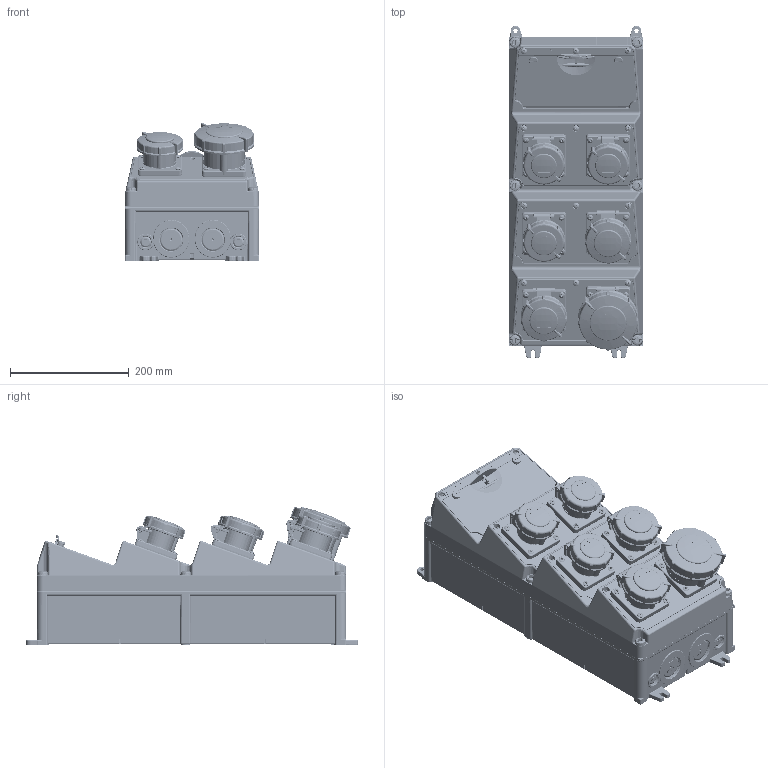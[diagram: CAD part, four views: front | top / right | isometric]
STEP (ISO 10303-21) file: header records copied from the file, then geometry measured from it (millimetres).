
FILE_DESCRIPTION((''),'2;1');
FILE_NAME('940028-1_ASM_1_ASM','2018-06-12T',('prakek'),('MENNEKES'),'PRO/ENGINEER BY PARAMETRIC TECHNOLOGY CORPORATION, 2015440','PRO/ENGINEER BY PARAMETRIC TECHNOLOGY CORPORATION, 2015440','');
FILE_SCHEMA(('AUTOMOTIVE_DESIGN { 1 0 10303 214 1 1 1 1 }'));
Products named in the file (11): 4-4_SW_O_GRAU_1; LS_4POL_4TE_1; LS_3POL_3TE_1; LS_2POL_2TE_1; MP_LEER_GRAU_1; MP_FEN10_67_OBEN_GRAU_1; BAUTEIL_DUMMY__1; FL85X75_CEE_32_5_67_ROT_1; FL75X75_CEE_16_4_67_ROT_1; FL75X75_CEE_16_3_67_BLAU_1; 940028-1_ASM_1_ASM
Assembly tree (15 placements, depth 2):
  940028-1_ASM_1_ASM
    4-4_SW_O_GRAU_1
    LS_4POL_4TE_1
    LS_3POL_3TE_1
    LS_2POL_2TE_1
    MP_LEER_GRAU_1  x3
    MP_FEN10_67_OBEN_GRAU_1
    BAUTEIL_DUMMY__1
    FL85X75_CEE_32_5_67_ROT_1
    FL75X75_CEE_16_4_67_ROT_1  x2
    FL75X75_CEE_16_3_67_BLAU_1  x3
Bounding box: 225 x 558.2 x 232.14 mm (x, y, z)
Volume: 13921262.7 mm3; surface area: 1403387.6 mm2
Topology: 14 solids, 14 shells, 12857 faces, 35912 edges, 22985 vertices
Faces by surface type: plane 5580, cylinder 3675, bspline 1307, torus 1195, cone 682, sphere 287, extrusion 131
Entity records: 513650 total; most frequent: CARTESIAN_POINT 149424, ORIENTED_EDGE 60202, DIRECTION 52707, EDGE_CURVE 30101, VERTEX_POINT 19364, AXIS2_PLACEMENT_3D 18408, VECTOR 15891, LINE 15760
